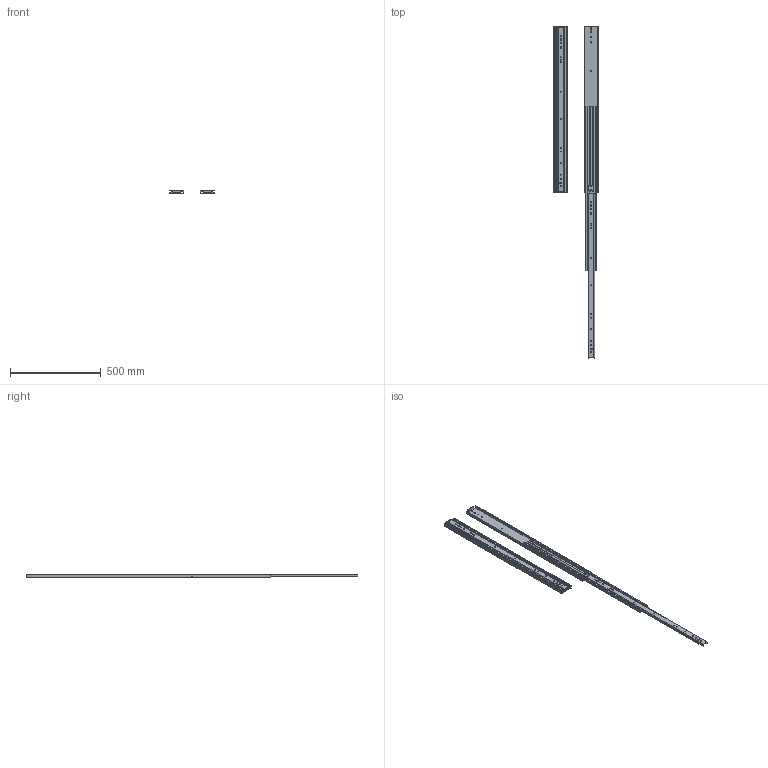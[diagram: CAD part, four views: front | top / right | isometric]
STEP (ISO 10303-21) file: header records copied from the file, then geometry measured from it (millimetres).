
FILE_DESCRIPTION((''),'2;1');
FILE_NAME('ASSEM1_1_2_3_4_5_6_7_8_9_10__14_ASM','2026-04-08T08:49:45',('T260078'),(''),'CREO PARAMETRIC BY PTC INC, 2025123','CREO PARAMETRIC BY PTC INC, 2025123','');
FILE_SCHEMA(('CONFIG_CONTROL_DESIGN','SHAPE_APPEARANCE_LAYERS_GROUPS'));
Length unit declared in the file: millimetre
Products named in the file (6): 76J01-36_X2_540B_X0_-M; 76J01-36_X2_540B_X0_-I; 76J01-36_X2_540B_X0_-O; 76J01-36_X2_540_X0__ASM; 76J01-36_X2_540B_X0_-_X2_5C5595_ASM; ASSEM1_1_2_3_4_5_6_7_8_9_10__14_ASM
Assembly tree (8 placements, depth 3):
  ASSEM1_1_2_3_4_5_6_7_8_9_10__14_ASM
    76J01-36_X2_540_X0__ASM
      76J01-36_X2_540B_X0_-M
      76J01-36_X2_540B_X0_-I
      76J01-36_X2_540B_X0_-O
    76J01-36_X2_540B_X0_-_X2_5C5595_ASM
      76J01-36_X2_540B_X0_-M
      76J01-36_X2_540B_X0_-I
      76J01-36_X2_540B_X0_-O
Bounding box: 245.44 x 1828.8 x 19.3 mm (x, y, z)
Volume: 1126630.4 mm3; surface area: 1005825.6 mm2
Topology: 6 solids, 6 shells, 408 faces, 1306 edges, 898 vertices
Faces by surface type: cylinder 208, plane 200
Entity records: 8902 total; most frequent: CARTESIAN_POINT 1358, DIRECTION 1334, ORIENTED_EDGE 1306, EDGE_CURVE 653, AXIS2_PLACEMENT_3D 466, VERTEX_POINT 449, VECTOR 402, LINE 402
